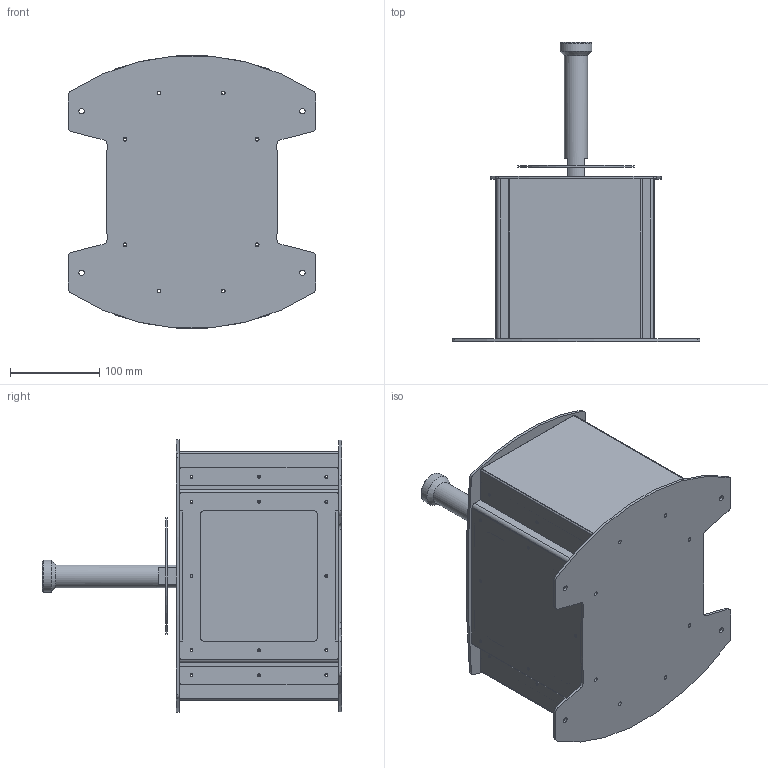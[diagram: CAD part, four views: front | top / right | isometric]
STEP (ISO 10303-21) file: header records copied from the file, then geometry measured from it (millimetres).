
FILE_DESCRIPTION(/* description */ (''),/* implementation_level */ '2;1');
FILE_NAME(/* name */ 'C:/Users/Мусульманин/Desktop/FFB .step',/* time_stamp */ '2021-06-06T20:21:56+03:00',/* author */ (''),/* organization */ (''),/* preprocessor_version */ 'ST-DEVELOPER v18.1',/* originating_system */ 'Autodesk Translation Framework v10.9.0.1377',/* authorisation */ '');
FILE_SCHEMA (('AUTOMOTIVE_DESIGN { 1 0 10303 214 3 1 1 }'));
Length unit declared in the file: millimetre
Products named in the file (6): FFB; Component5; Component7; Component6; Component8; Component9
Assembly tree (5 placements, depth 2):
  FFB
    Component5
    Component7
    Component6
    Component8
    Component9
Bounding box: 277.5 x 335 x 304.75 mm (x, y, z)
Volume: 1708033.2 mm3; surface area: 1063822.2 mm2
Topology: 59 solids, 59 shells, 1025 faces, 2520 edges, 1616 vertices
Faces by surface type: cylinder 571, plane 445, cone 8, bspline 1
Full cylindrical faces by diameter (mm): 2.2 x4, 2.5 x60, 3 x22, 3.2 x28, 3.4 x26, 4 x124, 4.2 x16, 5 x4, 6 x20, 7 x2, 8 x20, 10 x16, 14 x3, 18 x12, 20 x4, 22 x12, 26 x1, 30 x1, 35.822 x1, 45 x8, 50 x1, 63 x2, 100 x2, 105 x1, 130 x1
Entity records: 32224 total; most frequent: DIRECTION 5711, CARTESIAN_POINT 5451, ORIENTED_EDGE 5040, EDGE_CURVE 2520, AXIS2_PLACEMENT_3D 2180, EDGE_LOOP 1732, VERTEX_POINT 1616, LINE 1351
